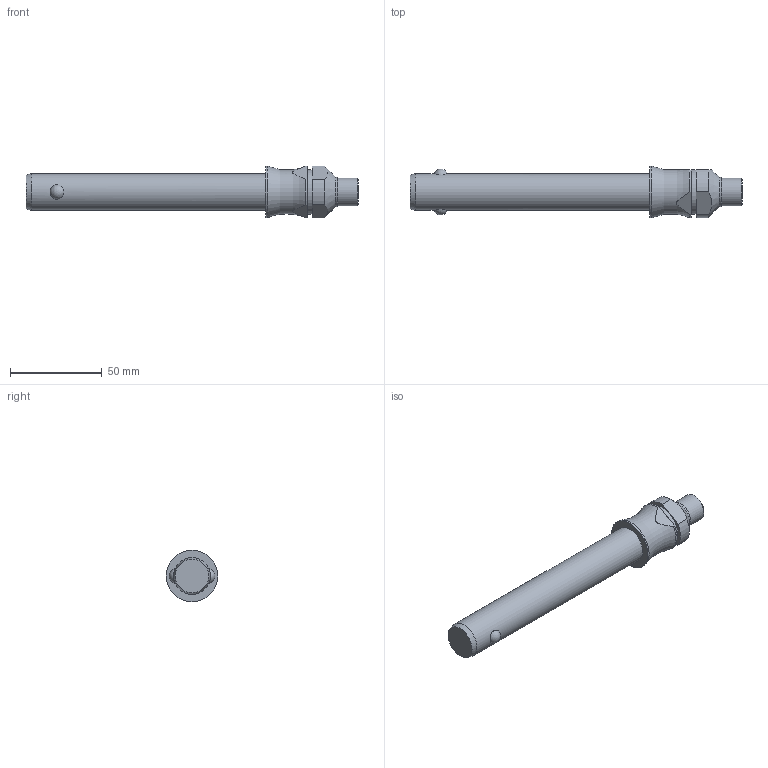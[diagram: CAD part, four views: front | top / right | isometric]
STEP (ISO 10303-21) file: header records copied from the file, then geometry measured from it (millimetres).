
FILE_DESCRIPTION( ( 'STEP AP203' ), '1' );
FILE_NAME( 'C:/Temp/Ganter_Step_05_03_2020/data/3_1/gn113_3/Stainless Steel-Ball lock pin GN 113.3-20-110 (deactivated).stp', '2020-03-12T08:19:05', ( 'License CC BY-ND 4.0' ), ( 'CADENAS' ), ' ', 'PARTsolutions', ' ' );
FILE_SCHEMA( ( 'CONFIG_CONTROL_DESIGN' ) );
Length unit declared in the file: millimetre
Products named in the file (1): _Stainless Steel-Ball lock pin GN 113.3-20-110 (deactivated)
Bounding box: 180.6 x 28 x 28 mm (x, y, z)
Volume: 61798.8 mm3; surface area: 12963.6 mm2
Topology: 1 solids, 1 shells, 29 faces, 62 edges, 40 vertices
Faces by surface type: plane 11, cylinder 11, cone 4, sphere 2, torus 1
Full cylindrical faces by diameter (mm): 15 x1, 16 x1, 20 x1, 24 x1, 28 x1
Entity records: 1010 total; most frequent: CARTESIAN_POINT 380, DIRECTION 126, ORIENTED_EDGE 100, AXIS2_PLACEMENT_3D 54, EDGE_CURVE 50, EDGE_LOOP 44, VERTEX_POINT 38, FACE_OUTER_BOUND 35
